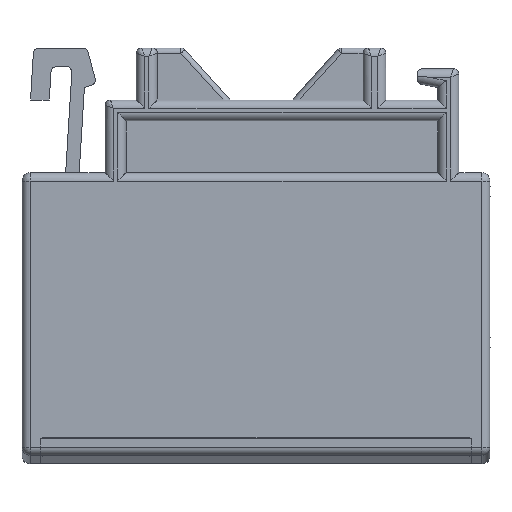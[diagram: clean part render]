
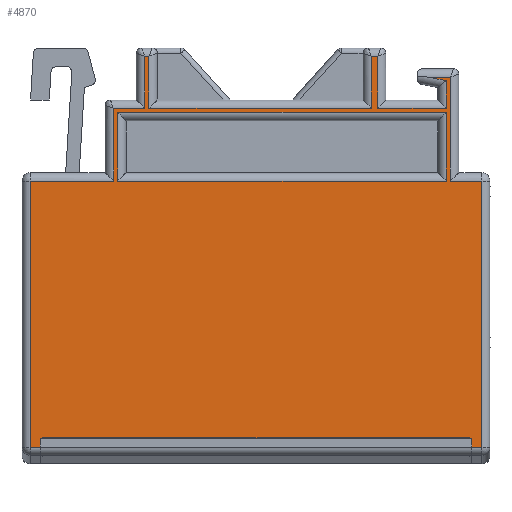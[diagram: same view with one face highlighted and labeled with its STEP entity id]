
A CAD part, front view. The second image highlights one B-rep face of the part: STEP entity #4870.
In plain terms, the highlighted planar face has unit normal (0, -1, 0).
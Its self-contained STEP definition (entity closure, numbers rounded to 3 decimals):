
#1=DIRECTION('',(0.,0.,1.));
#2=VECTOR('',#1,25.597);
#3=CARTESIAN_POINT('',(21.7,-13.5,-26.397));
#4=LINE('',#3,#2);
#5=DIRECTION('',(1.,0.,0.));
#6=VECTOR('',#5,1.2);
#7=CARTESIAN_POINT('',(20.5,-13.5,-26.397));
#8=LINE('',#7,#6);
#9=DIRECTION('',(0.,0.,1.));
#10=VECTOR('',#9,0.897);
#11=CARTESIAN_POINT('',(20.5,-13.5,-26.397));
#12=LINE('',#11,#10);
#13=DIRECTION('',(1.,0.,0.));
#14=VECTOR('',#13,41.);
#15=CARTESIAN_POINT('',(-20.5,-13.5,-25.5));
#16=LINE('',#15,#14);
#17=DIRECTION('',(0.,0.,1.));
#18=VECTOR('',#17,0.897);
#19=CARTESIAN_POINT('',(-20.5,-13.5,-26.397));
#20=LINE('',#19,#18);
#21=DIRECTION('',(1.,0.,0.));
#22=VECTOR('',#21,1.2);
#23=CARTESIAN_POINT('',(-21.7,-13.5,-26.397));
#24=LINE('',#23,#22);
#25=DIRECTION('',(0.,0.,-1.));
#26=VECTOR('',#25,25.597);
#27=CARTESIAN_POINT('',(-21.7,-13.5,-0.8));
#28=LINE('',#27,#26);
#29=DIRECTION('',(-1.,0.,0.));
#30=VECTOR('',#29,8.);
#31=CARTESIAN_POINT('',(-13.7,-13.5,-0.8));
#32=LINE('',#31,#30);
#33=DIRECTION('',(0.,0.,-1.));
#34=VECTOR('',#33,7.);
#35=CARTESIAN_POINT('',(-13.7,-13.5,6.2));
#36=LINE('',#35,#34);
#37=DIRECTION('',(-1.,0.,0.));
#38=VECTOR('',#37,3.);
#39=CARTESIAN_POINT('',(-10.7,-13.5,6.2));
#40=LINE('',#39,#38);
#41=DIRECTION('',(0.,0.,-1.));
#42=VECTOR('',#41,5.);
#43=CARTESIAN_POINT('',(-10.7,-13.5,11.2));
#44=LINE('',#43,#42);
#45=DIRECTION('',(-1.,0.,0.));
#46=VECTOR('',#45,0.4);
#47=CARTESIAN_POINT('',(-10.3,-13.5,11.2));
#48=LINE('',#47,#46);
#49=DIRECTION('',(0.,0.,1.));
#50=VECTOR('',#49,5.);
#51=CARTESIAN_POINT('',(-10.3,-13.5,6.2));
#52=LINE('',#51,#50);
#53=DIRECTION('',(-1.,0.,0.));
#54=VECTOR('',#53,21.4);
#55=CARTESIAN_POINT('',(11.1,-13.5,6.2));
#56=LINE('',#55,#54);
#57=DIRECTION('',(0.,0.,-1.));
#58=VECTOR('',#57,5.);
#59=CARTESIAN_POINT('',(11.1,-13.5,11.2));
#60=LINE('',#59,#58);
#61=DIRECTION('',(-1.,0.,0.));
#62=VECTOR('',#61,0.6);
#63=CARTESIAN_POINT('',(11.7,-13.5,11.2));
#64=LINE('',#63,#62);
#65=DIRECTION('',(0.,0.,1.));
#66=VECTOR('',#65,5.);
#67=CARTESIAN_POINT('',(11.7,-13.5,6.2));
#68=LINE('',#67,#66);
#69=DIRECTION('',(-1.,0.,0.));
#70=VECTOR('',#69,6.6);
#71=CARTESIAN_POINT('',(18.3,-13.5,6.2));
#72=LINE('',#71,#70);
#73=DIRECTION('',(0.,0.,-1.));
#74=VECTOR('',#73,2.656);
#75=CARTESIAN_POINT('',(18.3,-13.5,8.856));
#76=LINE('',#75,#74);
#77=DIRECTION('',(0.981,0.,-0.196));
#78=VECTOR('',#77,1.755);
#79=CARTESIAN_POINT('',(16.579,-13.5,9.2));
#80=LINE('',#79,#78);
#81=DIRECTION('',(-1.,0.,0.));
#82=VECTOR('',#81,2.121);
#83=CARTESIAN_POINT('',(18.7,-13.5,9.2));
#84=LINE('',#83,#82);
#85=DIRECTION('',(0.,0.,1.));
#86=VECTOR('',#85,10.);
#87=CARTESIAN_POINT('',(18.7,-13.5,-0.8));
#88=LINE('',#87,#86);
#89=DIRECTION('',(-1.,0.,0.));
#90=VECTOR('',#89,3.);
#91=CARTESIAN_POINT('',(21.7,-13.5,-0.8));
#92=LINE('',#91,#90);
#93=DIRECTION('',(0.,0.,1.));
#94=VECTOR('',#93,6.6);
#95=CARTESIAN_POINT('',(-13.3,-13.5,-0.8));
#96=LINE('',#95,#94);
#97=DIRECTION('',(-1.,0.,0.));
#98=VECTOR('',#97,31.6);
#99=CARTESIAN_POINT('',(18.3,-13.5,-0.8));
#100=LINE('',#99,#98);
#101=DIRECTION('',(0.,0.,-1.));
#102=VECTOR('',#101,6.6);
#103=CARTESIAN_POINT('',(18.3,-13.5,5.8));
#104=LINE('',#103,#102);
#105=DIRECTION('',(1.,0.,0.));
#106=VECTOR('',#105,31.6);
#107=CARTESIAN_POINT('',(-13.3,-13.5,5.8));
#108=LINE('',#107,#106);
#3930=CARTESIAN_POINT('',(-20.5,-13.5,-25.5));
#3931=CARTESIAN_POINT('',(20.5,-13.5,-25.5));
#3932=VERTEX_POINT('',#3930);
#3933=VERTEX_POINT('',#3931);
#4162=CARTESIAN_POINT('',(21.7,-13.5,-26.397));
#4163=CARTESIAN_POINT('',(21.7,-13.5,-0.8));
#4164=VERTEX_POINT('',#4162);
#4165=VERTEX_POINT('',#4163);
#4167=CARTESIAN_POINT('',(20.5,-13.5,-26.397));
#4169=VERTEX_POINT('',#4167);
#4198=CARTESIAN_POINT('',(-21.7,-13.5,-0.8));
#4199=CARTESIAN_POINT('',(-21.7,-13.5,-26.397));
#4200=VERTEX_POINT('',#4198);
#4201=VERTEX_POINT('',#4199);
#4206=CARTESIAN_POINT('',(-20.5,-13.5,-26.397));
#4208=VERTEX_POINT('',#4206);
#4270=CARTESIAN_POINT('',(18.3,-13.5,6.2));
#4271=CARTESIAN_POINT('',(11.7,-13.5,6.2));
#4272=VERTEX_POINT('',#4270);
#4273=VERTEX_POINT('',#4271);
#4278=CARTESIAN_POINT('',(11.7,-13.5,11.2));
#4279=VERTEX_POINT('',#4278);
#4282=CARTESIAN_POINT('',(11.1,-13.5,11.2));
#4283=VERTEX_POINT('',#4282);
#4292=CARTESIAN_POINT('',(11.1,-13.5,6.2));
#4293=VERTEX_POINT('',#4292);
#4296=CARTESIAN_POINT('',(-10.3,-13.5,6.2));
#4297=VERTEX_POINT('',#4296);
#4298=CARTESIAN_POINT('',(-10.3,-13.5,11.2));
#4299=VERTEX_POINT('',#4298);
#4302=CARTESIAN_POINT('',(-10.7,-13.5,11.2));
#4303=VERTEX_POINT('',#4302);
#4312=CARTESIAN_POINT('',(-10.7,-13.5,6.2));
#4313=VERTEX_POINT('',#4312);
#4314=CARTESIAN_POINT('',(-13.7,-13.5,6.2));
#4315=VERTEX_POINT('',#4314);
#4322=CARTESIAN_POINT('',(-13.7,-13.5,-0.8));
#4323=VERTEX_POINT('',#4322);
#4386=CARTESIAN_POINT('',(-13.3,-13.5,-0.8));
#4387=CARTESIAN_POINT('',(-13.3,-13.5,5.8));
#4388=VERTEX_POINT('',#4386);
#4389=VERTEX_POINT('',#4387);
#4394=CARTESIAN_POINT('',(18.3,-13.5,5.8));
#4395=VERTEX_POINT('',#4394);
#4400=CARTESIAN_POINT('',(18.3,-13.5,-0.8));
#4401=VERTEX_POINT('',#4400);
#4406=CARTESIAN_POINT('',(16.579,-13.5,9.2));
#4407=CARTESIAN_POINT('',(18.3,-13.5,8.856));
#4408=VERTEX_POINT('',#4406);
#4409=VERTEX_POINT('',#4407);
#4410=CARTESIAN_POINT('',(18.7,-13.5,9.2));
#4411=VERTEX_POINT('',#4410);
#4416=CARTESIAN_POINT('',(18.7,-13.5,-0.8));
#4417=VERTEX_POINT('',#4416);
#4807=CARTESIAN_POINT('',(0.,-13.5,0.));
#4808=DIRECTION('',(0.,1.,0.));
#4809=DIRECTION('',(1.,0.,0.));
#4810=AXIS2_PLACEMENT_3D('',#4807,#4808,#4809);
#4811=PLANE('',#4810);
#4813=ORIENTED_EDGE('',*,*,#4812,.F.);
#4815=ORIENTED_EDGE('',*,*,#4814,.F.);
#4817=ORIENTED_EDGE('',*,*,#4816,.T.);
#4819=ORIENTED_EDGE('',*,*,#4818,.F.);
#4821=ORIENTED_EDGE('',*,*,#4820,.F.);
#4823=ORIENTED_EDGE('',*,*,#4822,.F.);
#4825=ORIENTED_EDGE('',*,*,#4824,.F.);
#4827=ORIENTED_EDGE('',*,*,#4826,.F.);
#4829=ORIENTED_EDGE('',*,*,#4828,.F.);
#4831=ORIENTED_EDGE('',*,*,#4830,.F.);
#4833=ORIENTED_EDGE('',*,*,#4832,.F.);
#4835=ORIENTED_EDGE('',*,*,#4834,.F.);
#4837=ORIENTED_EDGE('',*,*,#4836,.F.);
#4839=ORIENTED_EDGE('',*,*,#4838,.F.);
#4841=ORIENTED_EDGE('',*,*,#4840,.F.);
#4843=ORIENTED_EDGE('',*,*,#4842,.F.);
#4845=ORIENTED_EDGE('',*,*,#4844,.F.);
#4847=ORIENTED_EDGE('',*,*,#4846,.F.);
#4849=ORIENTED_EDGE('',*,*,#4848,.F.);
#4851=ORIENTED_EDGE('',*,*,#4850,.F.);
#4853=ORIENTED_EDGE('',*,*,#4852,.F.);
#4855=ORIENTED_EDGE('',*,*,#4854,.F.);
#4857=ORIENTED_EDGE('',*,*,#4856,.F.);
#4858=EDGE_LOOP('',(#4813,#4815,#4817,#4819,#4821,#4823,#4825,#4827,#4829,#4831,
#4833,#4835,#4837,#4839,#4841,#4843,#4845,#4847,#4849,#4851,#4853,#4855,#4857));
#4859=FACE_OUTER_BOUND('',#4858,.F.);
#4861=ORIENTED_EDGE('',*,*,#4860,.F.);
#4863=ORIENTED_EDGE('',*,*,#4862,.F.);
#4865=ORIENTED_EDGE('',*,*,#4864,.F.);
#4867=ORIENTED_EDGE('',*,*,#4866,.F.);
#4868=EDGE_LOOP('',(#4861,#4863,#4865,#4867));
#4869=FACE_BOUND('',#4868,.F.);
#4812=EDGE_CURVE('',#4164,#4165,#4,.T.);
#4814=EDGE_CURVE('',#4169,#4164,#8,.T.);
#4816=EDGE_CURVE('',#4169,#3933,#12,.T.);
#4818=EDGE_CURVE('',#3932,#3933,#16,.T.);
#4820=EDGE_CURVE('',#4208,#3932,#20,.T.);
#4822=EDGE_CURVE('',#4201,#4208,#24,.T.);
#4824=EDGE_CURVE('',#4200,#4201,#28,.T.);
#4826=EDGE_CURVE('',#4323,#4200,#32,.T.);
#4828=EDGE_CURVE('',#4315,#4323,#36,.T.);
#4830=EDGE_CURVE('',#4313,#4315,#40,.T.);
#4832=EDGE_CURVE('',#4303,#4313,#44,.T.);
#4834=EDGE_CURVE('',#4299,#4303,#48,.T.);
#4836=EDGE_CURVE('',#4297,#4299,#52,.T.);
#4838=EDGE_CURVE('',#4293,#4297,#56,.T.);
#4840=EDGE_CURVE('',#4283,#4293,#60,.T.);
#4842=EDGE_CURVE('',#4279,#4283,#64,.T.);
#4844=EDGE_CURVE('',#4273,#4279,#68,.T.);
#4846=EDGE_CURVE('',#4272,#4273,#72,.T.);
#4848=EDGE_CURVE('',#4409,#4272,#76,.T.);
#4850=EDGE_CURVE('',#4408,#4409,#80,.T.);
#4852=EDGE_CURVE('',#4411,#4408,#84,.T.);
#4854=EDGE_CURVE('',#4417,#4411,#88,.T.);
#4856=EDGE_CURVE('',#4165,#4417,#92,.T.);
#4860=EDGE_CURVE('',#4388,#4389,#96,.T.);
#4862=EDGE_CURVE('',#4401,#4388,#100,.T.);
#4864=EDGE_CURVE('',#4395,#4401,#104,.T.);
#4866=EDGE_CURVE('',#4389,#4395,#108,.T.);
#4870=ADVANCED_FACE('',(#4859,#4869),#4811,.F.);
